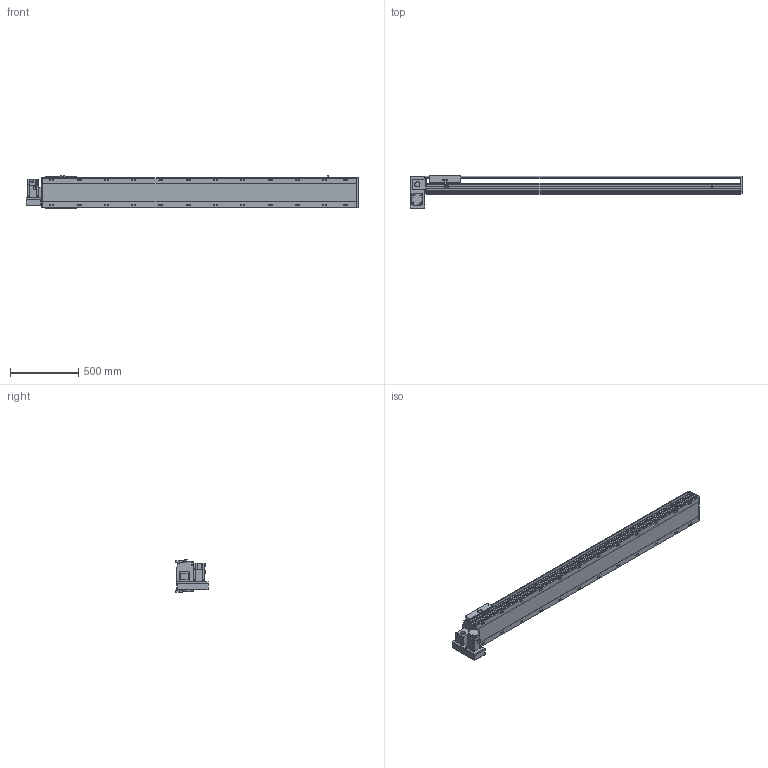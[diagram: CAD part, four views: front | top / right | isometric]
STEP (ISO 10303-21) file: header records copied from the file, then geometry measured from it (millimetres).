
FILE_DESCRIPTION(/* description */ ('STEP AP214'),/* implementation_level */ '2;1');
FILE_NAME(/* name */ 'PBS220-P40-S1950-LD-T75-C1-N(0)',/* time_stamp */ '2022-06-27T09:45:26+02:00',/* author */ ('License CC BY-ND 4.0'),/* organization */ ('CADENAS'),/* preprocessor_version */ 'ST-DEVELOPER v18.102',/* originating_system */ 'PARTsolutions',/* authorisation */ ' ');
FILE_SCHEMA (('AUTOMOTIVE_DESIGN {1 0 10303 214 3 1 1}'));
Length unit declared in the file: millimetre
Products named in the file (7): PBS220-P40-S1950-LD-T75-C1-N(0); PBS220_sensor; PBS220_plant; PBS220_sliser; T75-p1; PBS220T-LD_motors; PBS220-S1950()_body
Assembly tree (8 placements, depth 2):
  PBS220-P40-S1950-LD-T75-C1-N(0)
    PBS220_sensor  x3
    PBS220_plant
    PBS220_sliser
    T75-p1
    PBS220T-LD_motors
    PBS220-S1950()_body
Bounding box: 2434 x 239 x 238.5 mm (x, y, z)
Volume: 34252522.7 mm3; surface area: 3188715 mm2
Topology: 8 solids, 8 shells, 962 faces, 2508 edges, 1630 vertices
Faces by surface type: plane 614, cylinder 300, cone 48
Full cylindrical faces by diameter (mm): 2.013 x4, 4.5 x14, 4.917 x4, 6 x7, 6.647 x8, 8 x10, 8.376 x24, 8.5 x24, 10 x6, 14 x24, 38 x2, 40 x1, 70 x1
Entity records: 26876 total; most frequent: CARTESIAN_POINT 4756, DIRECTION 4671, ORIENTED_EDGE 4250, EDGE_CURVE 2125, AXIS2_PLACEMENT_3D 1659, VERTEX_POINT 1480, LINE 1353, VECTOR 1353
